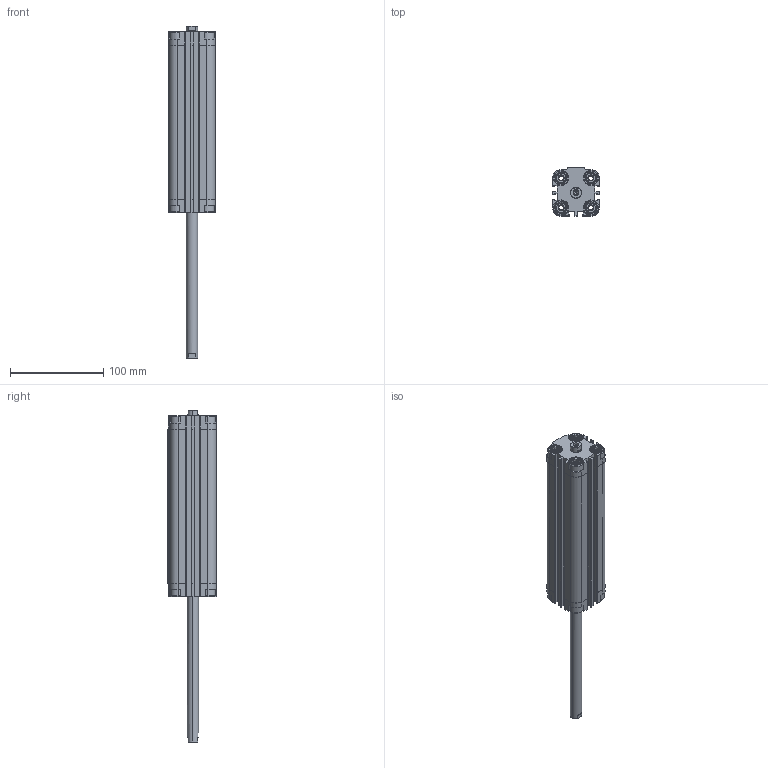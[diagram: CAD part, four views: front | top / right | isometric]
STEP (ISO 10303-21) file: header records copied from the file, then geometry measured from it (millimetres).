
FILE_DESCRIPTION (( 'STEP AP203' ), '1' );
FILE_NAME ('CDVU32-150F-P.STEP', '2020-07-24T18:13:54', ( '' ), ( '' ), 'SwSTEP 2.0', 'SolidWorks 2019', '' );
FILE_SCHEMA (( 'CONFIG_CONTROL_DESIGN' ));
Length unit declared in the file: millimetre
Products named in the file (1): CDVU32-150F-P
Bounding box: 50 x 52 x 356.5 mm (x, y, z)
Volume: 312358.2 mm3; surface area: 112746.6 mm2
Topology: 2 solids, 2 shells, 722 faces, 1928 edges, 1244 vertices
Faces by surface type: plane 422, cylinder 236, cone 64
Entity records: 22623 total; most frequent: CARTESIAN_POINT 4463, ORIENTED_EDGE 3840, DIRECTION 3710, EDGE_CURVE 1920, AXIS2_PLACEMENT_3D 1259, VERTEX_POINT 1244, VECTOR 1192, LINE 1192
